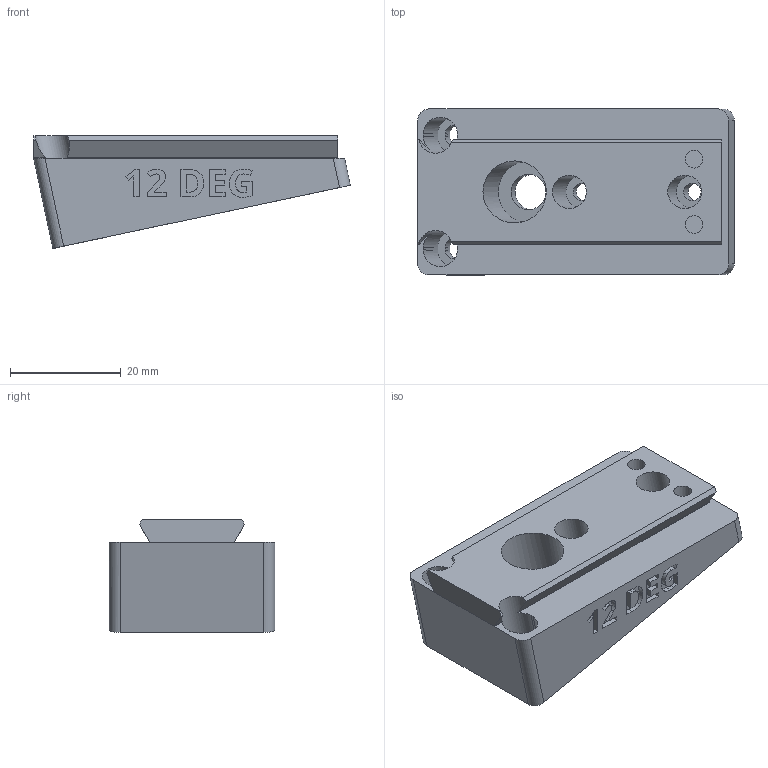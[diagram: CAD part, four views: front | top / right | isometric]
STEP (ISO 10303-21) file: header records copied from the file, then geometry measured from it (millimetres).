
FILE_DESCRIPTION(/* description */ ('STEP AP242 Edition 2','CAx-IF Rec.Pracs.---Representation and Presentation of Product Manufacturing Information (PMI)---4.0---2014-10-13','CAx-IF Rec.Pracs.---3D Tessellated Geometry---0.4---2014-09-14','2;1','CAx-IF Rec.Pracs.---User Defined Attributes---1.5---2016-08-15'),/* implementation_level */ '2;1');
FILE_NAME(/* name */ 'Camera Wedges - CAMERA MOUNTING WEDGE, POS, 12 DEG',/* time_stamp */ '2026-07-08T20:37:38Z',/* author */ (''),/* organization */ (''),/* preprocessor_version */ 'ST-DEVELOPER v20',/* originating_system */ 'ONSHAPE BY PTC INC, 1.217',/* authorisation */ ' ');
FILE_SCHEMA (('AP242_MANAGED_MODEL_BASED_3D_ENGINEERING_MIM_LF { 1 0 10303 442 3 1 4 }'));
Length unit declared in the file: metre
Products named in the file (1): CAMERA MOUNTING WEDGE, POS, 12 DEG
Bounding box: 57.27 x 30 x 20.43 mm (x, y, z)
Volume: 17992.2 mm3; surface area: 7705.5 mm2
Topology: 1 solids, 1 shells, 243 faces, 670 edges, 447 vertices
Faces by surface type: plane 145, cylinder 52, bspline 46
Full cylindrical faces by diameter (mm): 3.2 x4, 6 x2, 6.4 x1, 11.2 x1
Entity records: 7847 total; most frequent: CARTESIAN_POINT 1853, ORIENTED_EDGE 1318, DIRECTION 1079, EDGE_CURVE 659, LINE 451, VECTOR 451, VERTEX_POINT 444, AXIS2_PLACEMENT_3D 314
